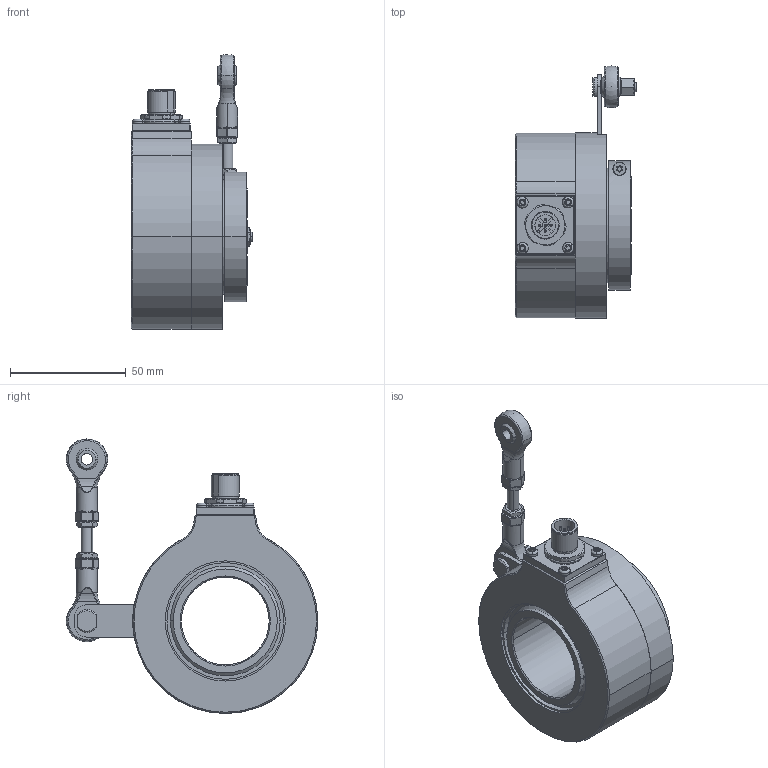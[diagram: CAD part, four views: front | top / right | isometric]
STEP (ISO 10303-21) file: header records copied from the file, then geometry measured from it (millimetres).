
FILE_DESCRIPTION (( 'STEP AP203' ), '1' );
FILE_NAME ('K80I.OXX.XXXXX.XH15838.6XRC6.step', '2025-12-09T08:08:55', ( '' ), ( '' ), 'SwSTEP 2.0', 'SolidWorks 2021', '' );
FILE_SCHEMA (( 'CONFIG_CONTROL_DESIGN' ));
Length unit declared in the file: millimetre
Products named in the file (1): K80I.OXX.XXXXX.XH15838.6XRC6
Bounding box: 52.6 x 108.97 x 119.08 mm (x, y, z)
Surface area: 64087.8 mm2 (no closed solid volume)
Topology: 0 solids, 20 shells, 732 faces, 1819 edges, 1126 vertices
Faces by surface type: plane 255, cylinder 244, cone 111, bspline 76, torus 32, sphere 14
Entity records: 24777 total; most frequent: CARTESIAN_POINT 7697, DIRECTION 3616, ORIENTED_EDGE 3546, EDGE_CURVE 1781, AXIS2_PLACEMENT_3D 1449, VERTEX_POINT 1122, EDGE_LOOP 799, CIRCLE 792
